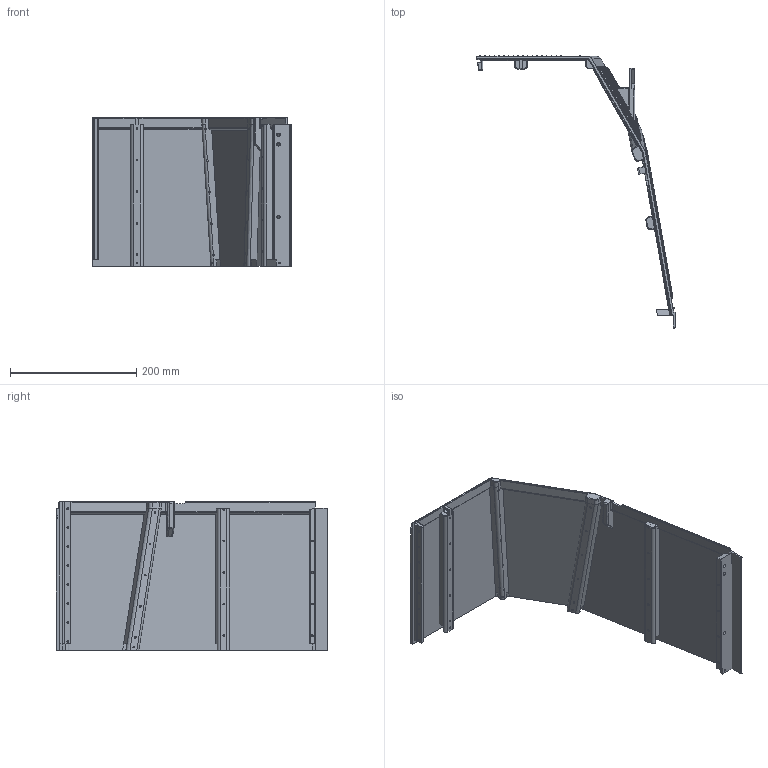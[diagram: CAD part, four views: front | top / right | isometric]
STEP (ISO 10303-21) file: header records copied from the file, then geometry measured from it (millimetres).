
FILE_DESCRIPTION(('STEP AP242 Edition 2','STEP AP242 Edition 2''CAx-IF Rec.Pracs.---Representation and Presentation of Product Manufacturing Information (PMI)---4.0---2014-10-13','STEP AP242 Edition 2''CAx-IF Rec.Pracs.---Representation and Presentation of Product Manufacturing Information (PMI)---4.0---2014-10-13''CAx-IF Rec.Pracs.---3D Tessellated Geometry---0.4---2014-09-14','STEP AP242 Edition 2''CAx-IF Rec.Pracs.---Representation and Presentation of Product Manufacturing Information (PMI)---4.0---2014-10-13''CAx-IF Rec.Pracs.---3D Tessellated Geometry---0.4---2014-09-14''2;1','STEP AP242 Edition 2''CAx-IF Rec.Pracs.---Representation and Presentation of Product Manufacturing Information (PMI)---4.0---2014-10-13''CAx-IF Rec.Pracs.---3D Tessellated Geometry---0.4---2014-09-14''2;1''CAx-IF Rec.Pracs.---User Defined Attributes---1.5---2016-08-15'),'2;1');
FILE_NAME('/vol/tmp/translate-5928582753522486027/Part Studio Body Front - Part Front Right LowerTop - Blue Car Color.step','2026-05-02T13:02:43',(''),(''),'ST-DEVELOPER v20','ONSHAPE BY PTC INC, 1.214',' ');
FILE_SCHEMA(('AP242_MANAGED_MODEL_BASED_3D_ENGINEERING_MIM_LF { 1 0 10303 442 3 1 4 }'));
Length unit declared in the file: metre
Products named in the file (1): Part Front Right LowerTop - Blue Car Color
Bounding box: 314 x 430.45 x 235 mm (x, y, z)
Volume: 950938.2 mm3; surface area: 386056.5 mm2
Topology: 1 solids, 1 shells, 1410 faces, 3567 edges, 2350 vertices
Faces by surface type: plane 866, cylinder 295, cone 202, bspline 29, torus 13, sphere 5
Full cylindrical faces by diameter (mm): 2.75 x42, 4 x3, 5.1 x1, 5.6 x3, 6.8 x1
Entity records: 44545 total; most frequent: CARTESIAN_POINT 10184, DIRECTION 7015, ORIENTED_EDGE 6722, EDGE_CURVE 3361, AXIS2_PLACEMENT_3D 2417, VERTEX_POINT 2308, LINE 2181, VECTOR 2181
